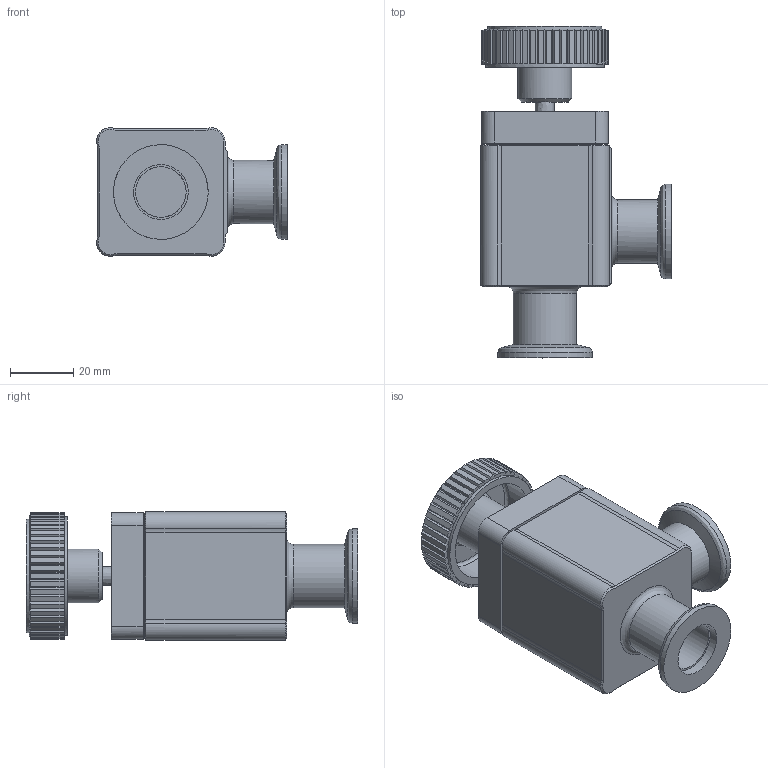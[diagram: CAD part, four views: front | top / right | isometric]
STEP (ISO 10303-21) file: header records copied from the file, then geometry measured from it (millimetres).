
FILE_DESCRIPTION((''),'2;1');
FILE_NAME('C:\TEMP\IDEAS\252873.stp','2006-09-19T12:31:10',('User'),( 'SDRC'),'I-DEAS Master Series 9','UNIX','Yes');
FILE_SCHEMA(('CONFIG_CONTROL_DESIGN'));
Length unit declared in the file: millimetre
Assembly tree (10 placements, depth 0):
Bounding box: 60.3 x 104.9 x 40.6 mm (x, y, z)
Volume: 77621.3 mm3; surface area: 38070.8 mm2
Topology: 10 solids, 10 shells, 464 faces, 1141 edges, 735 vertices
Faces by surface type: bspline 464
Entity records: 15471 total; most frequent: CARTESIAN_POINT 8156, ORIENTED_EDGE 2130, EDGE_CURVE 1065, VERTEX_POINT 687, EDGE_LOOP 480, FACE_OUTER_BOUND 428, ADVANCED_FACE 428, QUASI_UNIFORM_CURVE 336
